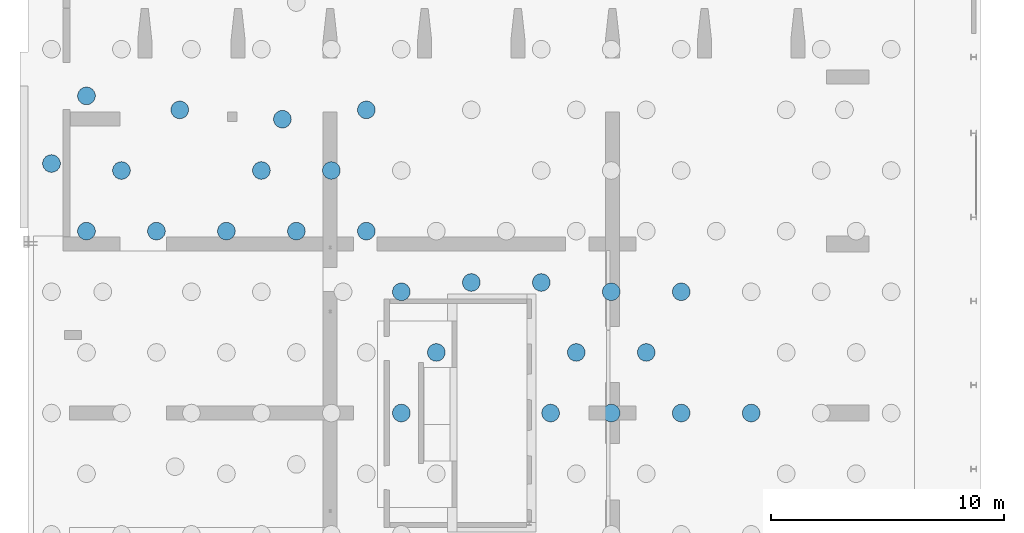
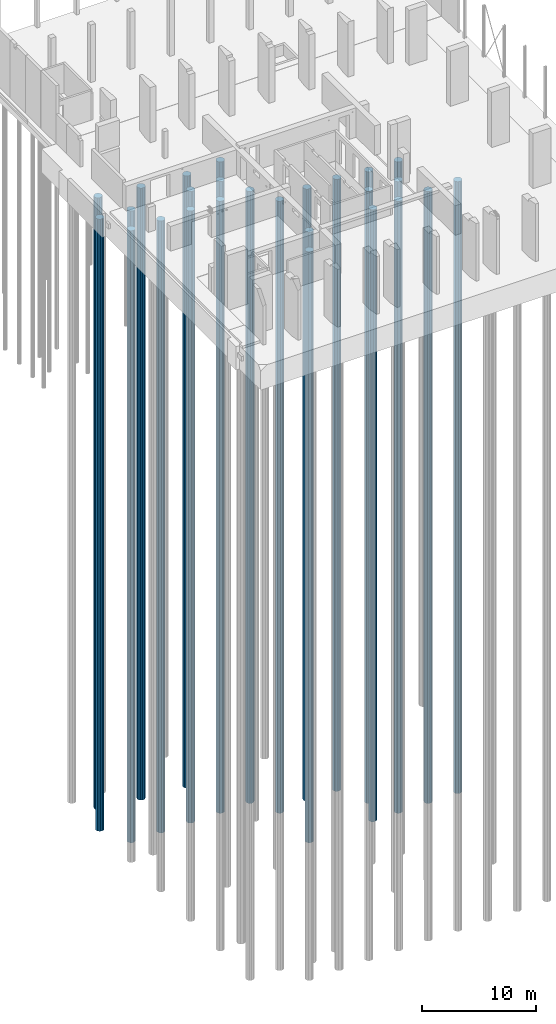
# One storey, part 4 of 26: 26 piles.
"""IFC2X3 building model written with IfcOpenShell, lengths in millimetres."""

from ifc_helpers import new_model, entity, si_unit, converted_unit, derived_unit, direction, frame, origin, place, context, subcontext, project, spatial, polyline, outline, extrude, material, element, save


model = new_model("IFC2X3")

# Units and contexts
model_context = context("Model", 3, precision=0.01, world=origin(), true_north=direction((6.12303176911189e-17, 1.0)))
body_context = subcontext(model_context, "Body", "Model", "MODEL_VIEW")
ifc_project = project(units=[si_unit("LENGTHUNIT", "METRE", prefix="MILLI"), si_unit("AREAUNIT", "SQUARE_METRE"), si_unit("VOLUMEUNIT", "CUBIC_METRE"), converted_unit("PLANEANGLEUNIT", "DEGREE", entity("IfcRatioMeasure", 0.0174532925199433), si_unit("PLANEANGLEUNIT", "RADIAN"), dimensions=[0, 0, 0, 0, 0, 0, 0]), si_unit("MASSUNIT", "GRAM", prefix="KILO"), derived_unit("MASSDENSITYUNIT", [(si_unit("MASSUNIT", "GRAM", prefix="KILO"), 1), (si_unit("LENGTHUNIT", "METRE"), -3)]), si_unit("TIMEUNIT", "SECOND"), si_unit("FREQUENCYUNIT", "HERTZ"), si_unit("THERMODYNAMICTEMPERATUREUNIT", "DEGREE_CELSIUS"), derived_unit("THERMALTRANSMITTANCEUNIT", [(si_unit("MASSUNIT", "GRAM", prefix="KILO"), 1), (si_unit("THERMODYNAMICTEMPERATUREUNIT", "KELVIN"), -1), (si_unit("TIMEUNIT", "SECOND"), -3)]), derived_unit("VOLUMETRICFLOWRATEUNIT", [(si_unit("LENGTHUNIT", "METRE"), 3), (si_unit("TIMEUNIT", "SECOND"), -1)]), si_unit("ELECTRICCURRENTUNIT", "AMPERE"), si_unit("ELECTRICVOLTAGEUNIT", "VOLT"), si_unit("POWERUNIT", "WATT"), si_unit("FORCEUNIT", "NEWTON", prefix="KILO"), si_unit("ILLUMINANCEUNIT", "LUX"), si_unit("LUMINOUSFLUXUNIT", "LUMEN"), si_unit("LUMINOUSINTENSITYUNIT", "CANDELA"), derived_unit("USERDEFINED", [(si_unit("MASSUNIT", "GRAM", prefix="KILO"), -1), (si_unit("LENGTHUNIT", "METRE"), -2), (si_unit("TIMEUNIT", "SECOND"), 3), (si_unit("LUMINOUSFLUXUNIT", "LUMEN"), 1)]), derived_unit("LINEARVELOCITYUNIT", [(si_unit("LENGTHUNIT", "METRE"), 1), (si_unit("TIMEUNIT", "SECOND"), -1)]), si_unit("PRESSUREUNIT", "PASCAL"), derived_unit("USERDEFINED", [(si_unit("LENGTHUNIT", "METRE"), -2), (si_unit("MASSUNIT", "GRAM", prefix="KILO"), 1), (si_unit("TIMEUNIT", "SECOND"), -2)])], contexts=[model_context])

# Site, building, storey
site_placement = place(None, origin())
site = spatial("IfcSite", under=ifc_project, at=site_placement, Name="Default", CompositionType="ELEMENT")
building_placement = place(site_placement, origin())
building = spatial("IfcBuilding", under=site, at=building_placement, Name="niet gebruiken", CompositionType="ELEMENT")
storey_placement = place(building_placement, origin())
storey = spatial("IfcBuildingStorey", under=building, at=storey_placement, Name="00 begane grond", CompositionType="ELEMENT", Elevation=0.0)

# Piles
ifc_material = material(Name="NLRS_f2_beton ihwg")
pile_1_placement = place(storey_placement, origin())
element("IfcPile", 1, at=pile_1_placement, inside=storey, material=ifc_material, Name="NLRS_17.12_SFO_TLB_funderingspaal grondverdringend_gen:Tubex_r762/950", ObjectType="NLRS_17.12_SFO_TLB_funderingspaal grondverdringend_gen:Tubex_r762/950", context=body_context, shape_type="SweptSolid", body=[
    extrude(outline(polyline([(-33.2063379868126, -379.550179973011), (33.2063379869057, -379.550179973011), (161.017557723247, -345.303266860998), (269.407683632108, -269.407683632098), (345.303266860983, -161.017557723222), (379.550179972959, -33.2063379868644), (368.017739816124, 98.6100561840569), (312.096928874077, 218.532622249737), (218.532622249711, 312.096928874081), (98.6100561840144, 368.017739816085), (33.2063379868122, 379.550179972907), (-33.2063379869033, 379.550179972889), (-161.017557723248, 345.303266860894), (-269.407683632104, 269.407683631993), (-345.303266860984, 161.017557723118), (-379.550179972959, 33.20633798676), (-368.017739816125, -98.6100561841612), (-312.096928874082, -218.532622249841), (-218.532622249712, -312.096928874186), (-98.6100561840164, -368.017739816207), (-33.2063379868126, -379.550179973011)])), frame((125250.0, 31100.0, -68100.0), z_axis=(0.0, 0.0, 1.0), x_axis=(0.087155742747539, -0.996194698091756, 0.0)), (0.0, 0.0, 1.0), 65380.0),
])
pile_2_placement = place(storey_placement, origin())
element("IfcPile", 2, at=pile_2_placement, inside=storey, material=ifc_material, Name="NLRS_17.12_SFO_TLB_funderingspaal grondverdringend_gen:Tubex_r762/950", ObjectType="NLRS_17.12_SFO_TLB_funderingspaal grondverdringend_gen:Tubex_r762/950", context=body_context, shape_type="SweptSolid", body=[
    extrude(outline(polyline([(-33.2063379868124, -379.550179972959), (33.2063379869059, -379.550179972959), (161.017557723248, -345.303266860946), (269.407683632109, -269.407683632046), (345.303266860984, -161.01755772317), (379.550179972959, -33.2063379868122), (368.017739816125, 98.610056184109), (312.096928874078, 218.532622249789), (218.532622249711, 312.096928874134), (98.6100561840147, 368.017739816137), (33.2063379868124, 379.550179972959), (-33.2063379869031, 379.550179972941), (-161.017557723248, 345.303266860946), (-269.407683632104, 269.407683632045), (-345.303266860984, 161.01755772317), (-379.550179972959, 33.2063379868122), (-368.017739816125, -98.610056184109), (-312.096928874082, -218.532622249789), (-218.532622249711, -312.096928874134), (-98.6100561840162, -368.017739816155), (-33.2063379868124, -379.550179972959)])), frame((133650.0, 30100.0, -68100.0), z_axis=(0.0, 0.0, 1.0), x_axis=(0.087155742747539, -0.996194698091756, 0.0)), (0.0, 0.0, 1.0), 65380.0),
])
pile_3_placement = place(storey_placement, origin())
element("IfcPile", 3, at=pile_3_placement, inside=storey, material=ifc_material, Name="NLRS_17.12_SFO_TLB_funderingspaal grondverdringend_gen:Tubex_r762/950", ObjectType="NLRS_17.12_SFO_TLB_funderingspaal grondverdringend_gen:Tubex_r762/950", context=body_context, shape_type="SweptSolid", body=[
    extrude(outline(polyline([(-33.2063379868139, -379.550179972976), (33.2063379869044, -379.550179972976), (161.017557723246, -345.303266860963), (269.407683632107, -269.407683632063), (345.303266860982, -161.017557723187), (379.550179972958, -33.2063379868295), (368.017739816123, 98.6100561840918), (312.096928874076, 218.532622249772), (218.53262224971, 312.096928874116), (98.6100561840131, 368.01773981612), (33.2063379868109, 379.550179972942), (-33.2063379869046, 379.550179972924), (-161.017557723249, 345.303266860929), (-269.407683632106, 269.407683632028), (-345.303266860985, 161.017557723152), (-379.550179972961, 33.2063379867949), (-368.017739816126, -98.6100561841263), (-312.096928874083, -218.532622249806), (-218.532622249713, -312.096928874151), (-98.6100561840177, -368.017739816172), (-33.2063379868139, -379.550179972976)])), frame((137250.0, 30500.0, -68100.0), z_axis=(0.0, 0.0, 1.0), x_axis=(0.087155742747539, -0.996194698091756, 0.0)), (0.0, 0.0, 1.0), 65380.0),
])
pile_4_placement = place(storey_placement, origin())
element("IfcPile", 4, at=pile_4_placement, inside=storey, material=ifc_material, Name="NLRS_17.12_SFO_TLB_funderingspaal grondverdringend_gen:Tubex_r762/950", ObjectType="NLRS_17.12_SFO_TLB_funderingspaal grondverdringend_gen:Tubex_r762/950", context=body_context, shape_type="SweptSolid", body=[
    extrude(outline(polyline([(-33.2063379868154, -379.550179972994), (33.2063379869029, -379.550179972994), (161.017557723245, -345.30326686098), (269.407683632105, -269.40768363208), (345.303266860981, -161.017557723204), (379.550179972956, -33.2063379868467), (368.017739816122, 98.6100561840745), (312.096928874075, 218.532622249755), (218.532622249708, 312.096928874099), (98.6100561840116, 368.017739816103), (33.2063379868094, 379.550179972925), (-33.2063379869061, 379.550179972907), (-161.017557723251, 345.303266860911), (-269.407683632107, 269.407683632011), (-345.303266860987, 161.017557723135), (-379.550179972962, 33.2063379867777), (-368.017739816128, -98.6100561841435), (-312.096928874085, -218.532622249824), (-218.532622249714, -312.096928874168), (-98.6100561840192, -368.017739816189), (-33.2063379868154, -379.550179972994)])), frame((129250.0, 30500.0, -68100.0), z_axis=(0.0, 0.0, 1.0), x_axis=(0.087155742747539, -0.996194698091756, 0.0)), (0.0, 0.0, 1.0), 65380.0),
])
pile_5_placement = place(storey_placement, origin())
element("IfcPile", 5, at=pile_5_placement, inside=storey, material=ifc_material, Name="NLRS_17.12_SFO_TLB_funderingspaal grondverdringend_gen:Tubex_r762/950", ObjectType="NLRS_17.12_SFO_TLB_funderingspaal grondverdringend_gen:Tubex_r762/950", context=body_context, shape_type="SweptSolid", body=[
    extrude(outline(polyline([(-33.2063379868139, -379.550179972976), (33.2063379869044, -379.550179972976), (161.017557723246, -345.303266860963), (269.407683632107, -269.407683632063), (345.303266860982, -161.017557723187), (379.550179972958, -33.2063379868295), (368.017739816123, 98.6100561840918), (312.096928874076, 218.532622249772), (218.53262224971, 312.096928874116), (98.6100561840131, 368.01773981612), (33.2063379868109, 379.550179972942), (-33.2063379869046, 379.550179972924), (-161.017557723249, 345.303266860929), (-269.407683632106, 269.407683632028), (-345.303266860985, 161.017557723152), (-379.550179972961, 33.2063379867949), (-368.017739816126, -98.6100561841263), (-312.096928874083, -218.532622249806), (-218.532622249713, -312.096928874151), (-98.6100561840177, -368.017739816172), (-33.2063379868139, -379.550179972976)])), frame((135750.0, 27900.0, -68100.0), z_axis=(0.0, 0.0, 1.0), x_axis=(0.087155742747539, -0.996194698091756, 0.0)), (0.0, 0.0, 1.0), 65380.0),
])
pile_6_placement = place(storey_placement, origin())
element("IfcPile", 6, at=pile_6_placement, inside=storey, material=ifc_material, Name="NLRS_17.12_SFO_TLB_funderingspaal grondverdringend_gen:Tubex_r762/950", ObjectType="NLRS_17.12_SFO_TLB_funderingspaal grondverdringend_gen:Tubex_r762/950", context=body_context, shape_type="SweptSolid", body=[
    extrude(outline(polyline([(-33.2063379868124, -379.550179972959), (33.2063379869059, -379.550179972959), (161.017557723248, -345.303266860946), (269.407683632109, -269.407683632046), (345.303266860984, -161.01755772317), (379.550179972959, -33.2063379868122), (368.017739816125, 98.610056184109), (312.096928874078, 218.532622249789), (218.532622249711, 312.096928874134), (98.6100561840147, 368.017739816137), (33.2063379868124, 379.550179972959), (-33.2063379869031, 379.550179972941), (-161.017557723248, 345.303266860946), (-269.407683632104, 269.407683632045), (-345.303266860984, 161.01755772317), (-379.550179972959, 33.2063379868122), (-368.017739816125, -98.610056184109), (-312.096928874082, -218.532622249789), (-218.532622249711, -312.096928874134), (-98.6100561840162, -368.017739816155), (-33.2063379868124, -379.550179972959)])), frame((132750.0, 27900.0, -68100.0), z_axis=(0.0, 0.0, 1.0), x_axis=(0.087155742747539, -0.996194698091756, 0.0)), (0.0, 0.0, 1.0), 65380.0),
])
pile_7_placement = place(storey_placement, origin())
element("IfcPile", 7, at=pile_7_placement, inside=storey, material=ifc_material, Name="NLRS_17.12_SFO_TLB_funderingspaal grondverdringend_gen:Tubex_r762/950", ObjectType="NLRS_17.12_SFO_TLB_funderingspaal grondverdringend_gen:Tubex_r762/950", context=body_context, shape_type="SweptSolid", body=[
    extrude(outline(polyline([(-33.2063379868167, -379.550179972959), (33.2063379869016, -379.550179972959), (161.017557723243, -345.303266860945), (269.407683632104, -269.407683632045), (345.303266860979, -161.017557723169), (379.550179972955, -33.2063379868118), (368.01773981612, 98.6100561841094), (312.096928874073, 218.53262224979), (218.532622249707, 312.096928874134), (98.6100561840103, 368.017739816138), (33.2063379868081, 379.550179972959), (-33.2063379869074, 379.550179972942), (-161.017557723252, 345.303266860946), (-269.407683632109, 269.407683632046), (-345.303266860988, 161.01755772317), (-379.550179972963, 33.2063379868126), (-368.017739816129, -98.6100561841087), (-312.096928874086, -218.532622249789), (-218.532622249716, -312.096928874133), (-98.6100561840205, -368.017739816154), (-33.2063379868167, -379.550179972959)])), frame((126750.0, 27900.0, -68100.0), z_axis=(0.0, 0.0, 1.0), x_axis=(0.087155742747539, -0.996194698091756, 0.0)), (0.0, 0.0, 1.0), 65380.0),
])
pile_8_placement = place(storey_placement, origin())
element("IfcPile", 8, at=pile_8_placement, inside=storey, material=ifc_material, Name="NLRS_17.12_SFO_TLB_funderingspaal grondverdringend_gen:Tubex_r762/950", ObjectType="NLRS_17.12_SFO_TLB_funderingspaal grondverdringend_gen:Tubex_r762/950", context=body_context, shape_type="SweptSolid", body=[
    extrude(outline(polyline([(-33.2063379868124, -379.550179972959), (33.2063379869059, -379.550179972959), (161.017557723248, -345.303266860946), (269.407683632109, -269.407683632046), (345.303266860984, -161.01755772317), (379.550179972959, -33.2063379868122), (368.017739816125, 98.610056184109), (312.096928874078, 218.532622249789), (218.532622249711, 312.096928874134), (98.6100561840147, 368.017739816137), (33.2063379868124, 379.550179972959), (-33.2063379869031, 379.550179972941), (-161.017557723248, 345.303266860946), (-269.407683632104, 269.407683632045), (-345.303266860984, 161.01755772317), (-379.550179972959, 33.2063379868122), (-368.017739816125, -98.610056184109), (-312.096928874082, -218.532622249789), (-218.532622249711, -312.096928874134), (-98.6100561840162, -368.017739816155), (-33.2063379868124, -379.550179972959)])), frame((123750.0, 28200.0, -68100.0), z_axis=(0.0, 0.0, 1.0), x_axis=(0.087155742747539, -0.996194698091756, 0.0)), (0.0, 0.0, 1.0), 65380.0),
])
pile_9_placement = place(storey_placement, origin())
element("IfcPile", 9, at=pile_9_placement, inside=storey, material=ifc_material, Name="NLRS_17.12_SFO_TLB_funderingspaal grondverdringend_gen:Tubex_r762/950", ObjectType="NLRS_17.12_SFO_TLB_funderingspaal grondverdringend_gen:Tubex_r762/950", context=body_context, shape_type="SweptSolid", body=[
    extrude(outline(polyline([(-33.2063379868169, -379.550179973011), (33.2063379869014, -379.550179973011), (161.017557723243, -345.303266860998), (269.407683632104, -269.407683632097), (345.303266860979, -161.017557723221), (379.550179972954, -33.206337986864), (368.01773981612, 98.6100561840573), (312.096928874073, 218.532622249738), (218.532622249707, 312.096928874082), (98.6100561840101, 368.017739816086), (33.2063379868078, 379.550179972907), (-33.2063379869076, 379.55017997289), (-161.017557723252, 345.303266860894), (-269.407683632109, 269.407683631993), (-345.303266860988, 161.017557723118), (-379.550179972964, 33.2063379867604), (-368.017739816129, -98.6100561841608), (-312.096928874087, -218.532622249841), (-218.532622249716, -312.096928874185), (-98.6100561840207, -368.017739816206), (-33.2063379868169, -379.550179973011)])), frame((125250.0, 25300.0, -68100.0), z_axis=(0.0, 0.0, 1.0), x_axis=(0.087155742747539, -0.996194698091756, 0.0)), (0.0, 0.0, 1.0), 65380.0),
])
pile_10_placement = place(storey_placement, origin())
element("IfcPile", 10, at=pile_10_placement, inside=storey, material=ifc_material, Name="NLRS_17.12_SFO_TLB_funderingspaal grondverdringend_gen:Tubex_r762/950", ObjectType="NLRS_17.12_SFO_TLB_funderingspaal grondverdringend_gen:Tubex_r762/950", context=body_context, shape_type="SweptSolid", body=[
    extrude(outline(polyline([(-33.2063379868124, -379.550179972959), (33.2063379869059, -379.550179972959), (161.017557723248, -345.303266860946), (269.407683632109, -269.407683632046), (345.303266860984, -161.01755772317), (379.550179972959, -33.2063379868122), (368.017739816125, 98.610056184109), (312.096928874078, 218.532622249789), (218.532622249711, 312.096928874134), (98.6100561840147, 368.017739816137), (33.2063379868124, 379.550179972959), (-33.2063379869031, 379.550179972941), (-161.017557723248, 345.303266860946), (-269.407683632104, 269.407683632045), (-345.303266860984, 161.01755772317), (-379.550179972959, 33.2063379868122), (-368.017739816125, -98.610056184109), (-312.096928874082, -218.532622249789), (-218.532622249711, -312.096928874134), (-98.6100561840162, -368.017739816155), (-33.2063379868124, -379.550179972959)])), frame((128250.0, 25300.0, -68100.0), z_axis=(0.0, 0.0, 1.0), x_axis=(0.087155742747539, -0.996194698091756, 0.0)), (0.0, 0.0, 1.0), 65380.0),
])
pile_11_placement = place(storey_placement, origin())
element("IfcPile", 11, at=pile_11_placement, inside=storey, material=ifc_material, Name="NLRS_17.12_SFO_TLB_funderingspaal grondverdringend_gen:Tubex_r762/950", ObjectType="NLRS_17.12_SFO_TLB_funderingspaal grondverdringend_gen:Tubex_r762/950", context=body_context, shape_type="SweptSolid", body=[
    extrude(outline(polyline([(-33.2063379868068, -379.550179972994), (33.2063379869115, -379.550179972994), (161.017557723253, -345.303266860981), (269.407683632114, -269.407683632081), (345.303266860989, -161.017557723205), (379.550179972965, -33.2063379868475), (368.01773981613, 98.6100561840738), (312.096928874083, 218.532622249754), (218.532622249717, 312.096928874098), (98.6100561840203, 368.017739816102), (33.206337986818, 379.550179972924), (-33.2063379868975, 379.550179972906), (-161.017557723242, 345.30326686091), (-269.407683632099, 269.40768363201), (-345.303266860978, 161.017557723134), (-379.550179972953, 33.2063379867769), (-368.017739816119, -98.6100561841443), (-312.096928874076, -218.532622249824), (-218.532622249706, -312.096928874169), (-98.6100561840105, -368.01773981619), (-33.2063379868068, -379.550179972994)])), frame((131250.0, 25300.0, -68100.0), z_axis=(0.0, 0.0, 1.0), x_axis=(0.087155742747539, -0.996194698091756, 0.0)), (0.0, 0.0, 1.0), 65380.0),
])
pile_12_placement = place(storey_placement, origin())
element("IfcPile", 12, at=pile_12_placement, inside=storey, material=ifc_material, Name="NLRS_17.12_SFO_TLB_funderingspaal grondverdringend_gen:Tubex_r762/950", ObjectType="NLRS_17.12_SFO_TLB_funderingspaal grondverdringend_gen:Tubex_r762/950", context=body_context, shape_type="SweptSolid", body=[
    extrude(outline(polyline([(-33.2063379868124, -379.550179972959), (33.2063379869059, -379.550179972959), (161.017557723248, -345.303266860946), (269.407683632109, -269.407683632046), (345.303266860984, -161.01755772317), (379.550179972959, -33.2063379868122), (368.017739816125, 98.610056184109), (312.096928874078, 218.532622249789), (218.532622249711, 312.096928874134), (98.6100561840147, 368.017739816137), (33.2063379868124, 379.550179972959), (-33.2063379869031, 379.550179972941), (-161.017557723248, 345.303266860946), (-269.407683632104, 269.407683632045), (-345.303266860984, 161.01755772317), (-379.550179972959, 33.2063379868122), (-368.017739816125, -98.610056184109), (-312.096928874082, -218.532622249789), (-218.532622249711, -312.096928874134), (-98.6100561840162, -368.017739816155), (-33.2063379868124, -379.550179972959)])), frame((134250.0, 25300.0, -68100.0), z_axis=(0.0, 0.0, 1.0), x_axis=(0.087155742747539, -0.996194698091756, 0.0)), (0.0, 0.0, 1.0), 65380.0),
])
pile_13_placement = place(storey_placement, origin())
element("IfcPile", 13, at=pile_13_placement, inside=storey, material=ifc_material, Name="NLRS_17.12_SFO_TLB_funderingspaal grondverdringend_gen:Tubex_r762/950", ObjectType="NLRS_17.12_SFO_TLB_funderingspaal grondverdringend_gen:Tubex_r762/950", context=body_context, shape_type="SweptSolid", body=[
    extrude(outline(polyline([(-33.2063379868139, -379.550179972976), (33.2063379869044, -379.550179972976), (161.017557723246, -345.303266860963), (269.407683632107, -269.407683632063), (345.303266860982, -161.017557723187), (379.550179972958, -33.2063379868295), (368.017739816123, 98.6100561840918), (312.096928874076, 218.532622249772), (218.53262224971, 312.096928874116), (98.6100561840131, 368.01773981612), (33.2063379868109, 379.550179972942), (-33.2063379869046, 379.550179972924), (-161.017557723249, 345.303266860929), (-269.407683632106, 269.407683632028), (-345.303266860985, 161.017557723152), (-379.550179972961, 33.2063379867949), (-368.017739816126, -98.6100561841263), (-312.096928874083, -218.532622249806), (-218.532622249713, -312.096928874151), (-98.6100561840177, -368.017739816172), (-33.2063379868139, -379.550179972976)])), frame((137250.0, 25300.0, -68100.0), z_axis=(0.0, 0.0, 1.0), x_axis=(0.087155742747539, -0.996194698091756, 0.0)), (0.0, 0.0, 1.0), 65380.0),
])
pile_14_placement = place(storey_placement, origin())
element("IfcPile", 14, at=pile_14_placement, inside=storey, material=ifc_material, Name="NLRS_17.12_SFO_TLB_funderingspaal grondverdringend_gen:Tubex_r762/950", ObjectType="NLRS_17.12_SFO_TLB_funderingspaal grondverdringend_gen:Tubex_r762/950", context=body_context, shape_type="SweptSolid", body=[
    extrude(outline(polyline([(-33.2063379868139, -379.550179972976), (33.2063379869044, -379.550179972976), (161.017557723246, -345.303266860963), (269.407683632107, -269.407683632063), (345.303266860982, -161.017557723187), (379.550179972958, -33.2063379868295), (368.017739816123, 98.6100561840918), (312.096928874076, 218.532622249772), (218.53262224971, 312.096928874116), (98.6100561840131, 368.01773981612), (33.2063379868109, 379.550179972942), (-33.2063379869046, 379.550179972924), (-161.017557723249, 345.303266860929), (-269.407683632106, 269.407683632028), (-345.303266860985, 161.017557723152), (-379.550179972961, 33.2063379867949), (-368.017739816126, -98.6100561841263), (-312.096928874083, -218.532622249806), (-218.532622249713, -312.096928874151), (-98.6100561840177, -368.017739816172), (-33.2063379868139, -379.550179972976)])), frame((150750.0, 22700.0, -68100.0), z_axis=(0.0, 0.0, 1.0), x_axis=(0.087155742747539, -0.996194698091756, 0.0)), (0.0, 0.0, 1.0), 65380.0),
])
pile_15_placement = place(storey_placement, origin())
element("IfcPile", 15, at=pile_15_placement, inside=storey, material=ifc_material, Name="NLRS_17.12_SFO_TLB_funderingspaal grondverdringend_gen:Tubex_r762/950", ObjectType="NLRS_17.12_SFO_TLB_funderingspaal grondverdringend_gen:Tubex_r762/950", context=body_context, shape_type="SweptSolid", body=[
    extrude(outline(polyline([(-33.2063379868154, -379.550179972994), (33.2063379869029, -379.550179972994), (161.017557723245, -345.30326686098), (269.407683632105, -269.40768363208), (345.303266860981, -161.017557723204), (379.550179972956, -33.2063379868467), (368.017739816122, 98.6100561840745), (312.096928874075, 218.532622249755), (218.532622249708, 312.096928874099), (98.6100561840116, 368.017739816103), (33.2063379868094, 379.550179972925), (-33.2063379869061, 379.550179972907), (-161.017557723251, 345.303266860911), (-269.407683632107, 269.407683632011), (-345.303266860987, 161.017557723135), (-379.550179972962, 33.2063379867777), (-368.017739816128, -98.6100561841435), (-312.096928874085, -218.532622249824), (-218.532622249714, -312.096928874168), (-98.6100561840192, -368.017739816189), (-33.2063379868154, -379.550179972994)])), frame((147750.0, 22700.0, -68100.0), z_axis=(0.0, 0.0, 1.0), x_axis=(0.087155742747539, -0.996194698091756, 0.0)), (0.0, 0.0, 1.0), 65380.0),
])
pile_16_placement = place(storey_placement, origin())
element("IfcPile", 16, at=pile_16_placement, inside=storey, material=ifc_material, Name="NLRS_17.12_SFO_TLB_funderingspaal grondverdringend_gen:Tubex_r762/950", ObjectType="NLRS_17.12_SFO_TLB_funderingspaal grondverdringend_gen:Tubex_r762/950", context=body_context, shape_type="SweptSolid", body=[
    extrude(outline(polyline([(-33.2063379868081, -379.550179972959), (33.2063379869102, -379.550179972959), (161.017557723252, -345.303266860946), (269.407683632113, -269.407683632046), (345.303266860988, -161.01755772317), (379.550179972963, -33.2063379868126), (368.017739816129, 98.6100561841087), (312.096928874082, 218.532622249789), (218.532622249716, 312.096928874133), (98.610056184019, 368.017739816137), (33.2063379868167, 379.550179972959), (-33.2063379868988, 379.550179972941), (-161.017557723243, 345.303266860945), (-269.4076836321, 269.407683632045), (-345.303266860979, 161.017557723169), (-379.550179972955, 33.2063379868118), (-368.01773981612, -98.6100561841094), (-312.096928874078, -218.532622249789), (-218.532622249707, -312.096928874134), (-98.6100561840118, -368.017739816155), (-33.2063379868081, -379.550179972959)])), frame((144750.0, 23100.0, -68100.0), z_axis=(0.0, 0.0, 1.0), x_axis=(0.087155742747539, -0.996194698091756, 0.0)), (0.0, 0.0, 1.0), 65380.0),
])
pile_17_placement = place(storey_placement, origin())
element("IfcPile", 17, at=pile_17_placement, inside=storey, material=ifc_material, Name="NLRS_17.12_SFO_TLB_funderingspaal grondverdringend_gen:Tubex_r762/950", ObjectType="NLRS_17.12_SFO_TLB_funderingspaal grondverdringend_gen:Tubex_r762/950", context=body_context, shape_type="SweptSolid", body=[
    extrude(outline(polyline([(-33.2063379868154, -379.550179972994), (33.2063379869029, -379.550179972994), (161.017557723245, -345.30326686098), (269.407683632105, -269.40768363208), (345.303266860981, -161.017557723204), (379.550179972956, -33.2063379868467), (368.017739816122, 98.6100561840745), (312.096928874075, 218.532622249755), (218.532622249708, 312.096928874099), (98.6100561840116, 368.017739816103), (33.2063379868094, 379.550179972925), (-33.2063379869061, 379.550179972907), (-161.017557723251, 345.303266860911), (-269.407683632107, 269.407683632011), (-345.303266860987, 161.017557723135), (-379.550179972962, 33.2063379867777), (-368.017739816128, -98.6100561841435), (-312.096928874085, -218.532622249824), (-218.532622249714, -312.096928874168), (-98.6100561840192, -368.017739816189), (-33.2063379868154, -379.550179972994)])), frame((141750.0, 23100.0, -68100.0), z_axis=(0.0, 0.0, 1.0), x_axis=(0.087155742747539, -0.996194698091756, 0.0)), (0.0, 0.0, 1.0), 65380.0),
])
pile_18_placement = place(storey_placement, origin())
element("IfcPile", 18, at=pile_18_placement, inside=storey, material=ifc_material, Name="NLRS_17.12_SFO_TLB_funderingspaal grondverdringend_gen:Tubex_r762/950", ObjectType="NLRS_17.12_SFO_TLB_funderingspaal grondverdringend_gen:Tubex_r762/950", context=body_context, shape_type="SweptSolid", body=[
    extrude(outline(polyline([(-33.2063379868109, -379.550179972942), (33.2063379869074, -379.550179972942), (161.017557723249, -345.303266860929), (269.40768363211, -269.407683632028), (345.303266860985, -161.017557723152), (379.550179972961, -33.2063379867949), (368.017739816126, 98.6100561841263), (312.096928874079, 218.532622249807), (218.532622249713, 312.096928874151), (98.6100561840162, 368.017739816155), (33.2063379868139, 379.550179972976), (-33.2063379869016, 379.550179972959), (-161.017557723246, 345.303266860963), (-269.407683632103, 269.407683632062), (-345.303266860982, 161.017557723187), (-379.550179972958, 33.2063379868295), (-368.017739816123, -98.6100561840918), (-312.09692887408, -218.532622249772), (-218.53262224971, -312.096928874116), (-98.6100561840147, -368.017739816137), (-33.2063379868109, -379.550179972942)])), frame((138750.0, 22700.0, -68100.0), z_axis=(0.0, 0.0, 1.0), x_axis=(0.087155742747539, -0.996194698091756, 0.0)), (0.0, 0.0, 1.0), 65380.0),
])
pile_19_placement = place(storey_placement, origin())
element("IfcPile", 19, at=pile_19_placement, inside=storey, material=ifc_material, Name="NLRS_17.12_SFO_TLB_funderingspaal grondverdringend_gen:Tubex_r762/950", ObjectType="NLRS_17.12_SFO_TLB_funderingspaal grondverdringend_gen:Tubex_r762/950", context=body_context, shape_type="SweptSolid", body=[
    extrude(outline(polyline([(-33.2063379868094, -379.550179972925), (33.2063379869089, -379.550179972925), (161.017557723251, -345.303266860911), (269.407683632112, -269.407683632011), (345.303266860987, -161.017557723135), (379.550179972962, -33.2063379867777), (368.017739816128, 98.6100561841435), (312.096928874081, 218.532622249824), (218.532622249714, 312.096928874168), (98.6100561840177, 368.017739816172), (33.2063379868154, 379.550179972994), (-33.2063379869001, 379.550179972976), (-161.017557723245, 345.30326686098), (-269.407683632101, 269.40768363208), (-345.303266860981, 161.017557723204), (-379.550179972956, 33.2063379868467), (-368.017739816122, -98.6100561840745), (-312.096928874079, -218.532622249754), (-218.532622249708, -312.096928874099), (-98.6100561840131, -368.01773981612), (-33.2063379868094, -379.550179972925)])), frame((140250.0, 20100.0, -68100.0), z_axis=(0.0, 0.0, 1.0), x_axis=(0.087155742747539, -0.996194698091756, 0.0)), (0.0, 0.0, 1.0), 63130.0),
])
pile_20_placement = place(storey_placement, origin())
element("IfcPile", 20, at=pile_20_placement, inside=storey, material=ifc_material, Name="NLRS_17.12_SFO_TLB_funderingspaal grondverdringend_gen:Tubex_r762/950", ObjectType="NLRS_17.12_SFO_TLB_funderingspaal grondverdringend_gen:Tubex_r762/950", context=body_context, shape_type="SweptSolid", body=[
    extrude(outline(polyline([(-33.206337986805, -379.550179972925), (33.2063379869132, -379.550179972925), (161.017557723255, -345.303266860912), (269.407683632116, -269.407683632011), (345.303266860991, -161.017557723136), (379.550179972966, -33.2063379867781), (368.017739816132, 98.6100561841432), (312.096928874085, 218.532622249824), (218.532622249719, 312.096928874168), (98.610056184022, 368.017739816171), (33.2063379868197, 379.550179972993), (-33.2063379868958, 379.550179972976), (-161.01755772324, 345.30326686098), (-269.407683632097, 269.407683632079), (-345.303266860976, 161.017557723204), (-379.550179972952, 33.2063379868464), (-368.017739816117, -98.6100561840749), (-312.096928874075, -218.532622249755), (-218.532622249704, -312.096928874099), (-98.6100561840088, -368.01773981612), (-33.206337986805, -379.550179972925)])), frame((146250.0, 20100.0, -68100.0), z_axis=(0.0, 0.0, 1.0), x_axis=(0.087155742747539, -0.996194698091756, 0.0)), (0.0, 0.0, 1.0), 65380.0),
])
pile_21_placement = place(storey_placement, origin())
element("IfcPile", 21, at=pile_21_placement, inside=storey, material=ifc_material, Name="NLRS_17.12_SFO_TLB_funderingspaal grondverdringend_gen:Tubex_r762/950", ObjectType="NLRS_17.12_SFO_TLB_funderingspaal grondverdringend_gen:Tubex_r762/950", context=body_context, shape_type="SweptSolid", body=[
    extrude(outline(polyline([(-33.2063379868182, -379.550179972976), (33.2063379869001, -379.550179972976), (161.017557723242, -345.303266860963), (269.407683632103, -269.407683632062), (345.303266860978, -161.017557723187), (379.550179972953, -33.2063379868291), (368.017739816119, 98.6100561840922), (312.096928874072, 218.532622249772), (218.532622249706, 312.096928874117), (98.6100561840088, 368.01773981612), (33.2063379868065, 379.550179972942), (-33.2063379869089, 379.550179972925), (-161.017557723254, 345.303266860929), (-269.40768363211, 269.407683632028), (-345.303266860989, 161.017557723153), (-379.550179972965, 33.2063379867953), (-368.01773981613, -98.6100561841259), (-312.096928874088, -218.532622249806), (-218.532622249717, -312.09692887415), (-98.610056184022, -368.017739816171), (-33.2063379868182, -379.550179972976)])), frame((149250.0, 20100.0, -68100.0), z_axis=(0.0, 0.0, 1.0), x_axis=(0.087155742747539, -0.996194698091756, 0.0)), (0.0, 0.0, 1.0), 65380.0),
])
pile_22_placement = place(storey_placement, origin())
element("IfcPile", 22, at=pile_22_placement, inside=storey, material=ifc_material, Name="NLRS_17.12_SFO_TLB_funderingspaal grondverdringend_gen:Tubex_r762/950", ObjectType="NLRS_17.12_SFO_TLB_funderingspaal grondverdringend_gen:Tubex_r762/950", context=body_context, shape_type="SweptSolid", body=[
    extrude(outline(polyline([(-33.2063379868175, -379.550179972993), (33.2063379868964, -379.550179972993), (161.017557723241, -345.303266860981), (269.4076836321, -269.407683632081), (345.303266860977, -161.017557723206), (379.550179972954, -33.2063379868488), (368.017739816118, 98.6100561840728), (312.096928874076, 218.532622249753), (218.532622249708, 312.096928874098), (98.6100561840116, 368.017739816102), (33.2063379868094, 379.550179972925), (-33.2063379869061, 379.550179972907), (-161.017557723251, 345.303266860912), (-269.40768363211, 269.407683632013), (-345.303266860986, 161.017557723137), (-379.550179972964, 33.2063379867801), (-368.017739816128, -98.6100561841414), (-312.096928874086, -218.532622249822), (-218.532622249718, -312.096928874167), (-98.6100561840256, -368.017739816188), (-33.2063379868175, -379.550179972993)])), frame((153750.0, 17500.0, -68100.0), z_axis=(0.0, 0.0, 1.0), x_axis=(0.0871557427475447, -0.996194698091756, 0.0)), (0.0, 0.0, 1.0), 65380.0),
])
pile_23_placement = place(storey_placement, origin())
element("IfcPile", 23, at=pile_23_placement, inside=storey, material=ifc_material, Name="NLRS_17.12_SFO_TLB_funderingspaal grondverdringend_gen:Tubex_r762/950", ObjectType="NLRS_17.12_SFO_TLB_funderingspaal grondverdringend_gen:Tubex_r762/950", context=body_context, shape_type="SweptSolid", body=[
    extrude(outline(polyline([(-33.2063379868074, -379.550179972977), (33.2063379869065, -379.550179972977), (161.017557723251, -345.303266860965), (269.40768363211, -269.407683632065), (345.303266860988, -161.01755772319), (379.550179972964, -33.2063379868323), (368.017739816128, 98.6100561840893), (312.096928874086, 218.53262224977), (218.532622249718, 312.096928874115), (98.6100561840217, 368.017739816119), (33.2063379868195, 379.550179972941), (-33.206337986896, 379.550179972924), (-161.017557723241, 345.303266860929), (-269.4076836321, 269.407683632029), (-345.303266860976, 161.017557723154), (-379.550179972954, 33.2063379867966), (-368.017739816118, -98.6100561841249), (-312.096928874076, -218.532622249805), (-218.532622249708, -312.09692887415), (-98.6100561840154, -368.017739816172), (-33.2063379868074, -379.550179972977)])), frame((150750.0, 17500.0, -68100.0), z_axis=(0.0, 0.0, 1.0), x_axis=(0.0871557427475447, -0.996194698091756, 0.0)), (0.0, 0.0, 1.0), 65380.0),
])
pile_24_placement = place(storey_placement, origin())
element("IfcPile", 24, at=pile_24_placement, inside=storey, material=ifc_material, Name="NLRS_17.12_SFO_TLB_funderingspaal grondverdringend_gen:Tubex_r762/950", ObjectType="NLRS_17.12_SFO_TLB_funderingspaal grondverdringend_gen:Tubex_r762/950", context=body_context, shape_type="SweptSolid", body=[
    extrude(outline(polyline([(-33.2063379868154, -379.550179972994), (33.2063379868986, -379.550179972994), (161.017557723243, -345.303266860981), (269.407683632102, -269.407683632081), (345.30326686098, -161.017557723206), (379.550179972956, -33.206337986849), (368.01773981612, 98.6100561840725), (312.096928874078, 218.532622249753), (218.53262224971, 312.096928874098), (98.6100561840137, 368.017739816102), (33.2063379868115, 379.550179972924), (-33.206337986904, 379.550179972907), (-161.017557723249, 345.303266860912), (-269.407683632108, 269.407683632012), (-345.303266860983, 161.017557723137), (-379.550179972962, 33.2063379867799), (-368.017739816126, -98.6100561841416), (-312.096928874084, -218.532622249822), (-218.532622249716, -312.096928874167), (-98.6100561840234, -368.017739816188), (-33.2063379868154, -379.550179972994)])), frame((147750.0, 17500.0, -68100.0), z_axis=(0.0, 0.0, 1.0), x_axis=(0.0871557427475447, -0.996194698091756, 0.0)), (0.0, 0.0, 1.0), 65380.0),
])
pile_25_placement = place(storey_placement, origin())
element("IfcPile", 25, at=pile_25_placement, inside=storey, material=ifc_material, Name="NLRS_17.12_SFO_TLB_funderingspaal grondverdringend_gen:Tubex_r762/950", ObjectType="NLRS_17.12_SFO_TLB_funderingspaal grondverdringend_gen:Tubex_r762/950", context=body_context, shape_type="SweptSolid", body=[
    extrude(outline(polyline([(-33.2063379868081, -379.550179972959), (33.2063379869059, -379.550179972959), (161.01755772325, -345.303266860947), (269.407683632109, -269.407683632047), (345.303266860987, -161.017557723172), (379.550179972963, -33.2063379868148), (368.017739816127, 98.6100561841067), (312.096928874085, 218.532622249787), (218.532622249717, 312.096928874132), (98.610056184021, 368.017739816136), (33.2063379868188, 379.550179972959), (-33.2063379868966, 379.550179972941), (-161.017557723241, 345.303266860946), (-269.4076836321, 269.407683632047), (-345.303266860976, 161.017557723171), (-379.550179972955, 33.206337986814), (-368.017739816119, -98.6100561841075), (-312.096928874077, -218.532622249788), (-218.532622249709, -312.096928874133), (-98.6100561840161, -368.017739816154), (-33.2063379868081, -379.550179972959)])), frame((145150.0, 17500.0, -68100.0), z_axis=(0.0, 0.0, 1.0), x_axis=(0.0871557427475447, -0.996194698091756, 0.0)), (0.0, 0.0, 1.0), 65380.0),
])
pile_26_placement = place(storey_placement, origin())
element("IfcPile", 26, at=pile_26_placement, inside=storey, material=ifc_material, Name="NLRS_17.12_SFO_TLB_funderingspaal grondverdringend_gen:Tubex_r762/950", ObjectType="NLRS_17.12_SFO_TLB_funderingspaal grondverdringend_gen:Tubex_r762/950", context=body_context, shape_type="SweptSolid", body=[
    extrude(outline(polyline([(-33.2063379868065, -379.550179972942), (33.2063379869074, -379.550179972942), (161.017557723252, -345.30326686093), (269.407683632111, -269.40768363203), (345.303266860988, -161.017557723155), (379.550179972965, -33.2063379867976), (368.017739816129, 98.610056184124), (312.096928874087, 218.532622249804), (218.532622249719, 312.096928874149), (98.6100561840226, 368.017739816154), (33.2063379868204, 379.550179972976), (-33.2063379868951, 379.550179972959), (-161.01755772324, 345.303266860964), (-269.407683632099, 269.407683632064), (-345.303266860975, 161.017557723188), (-379.550179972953, 33.2063379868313), (-368.017739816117, -98.6100561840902), (-312.096928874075, -218.53262224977), (-218.532622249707, -312.096928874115), (-98.6100561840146, -368.017739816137), (-33.2063379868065, -379.550179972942)])), frame((138750.0, 17500.0, -68100.0), z_axis=(0.0, 0.0, 1.0), x_axis=(0.0871557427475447, -0.996194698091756, 0.0)), (0.0, 0.0, 1.0), 63130.0),
])

save(model, "model.ifc")
